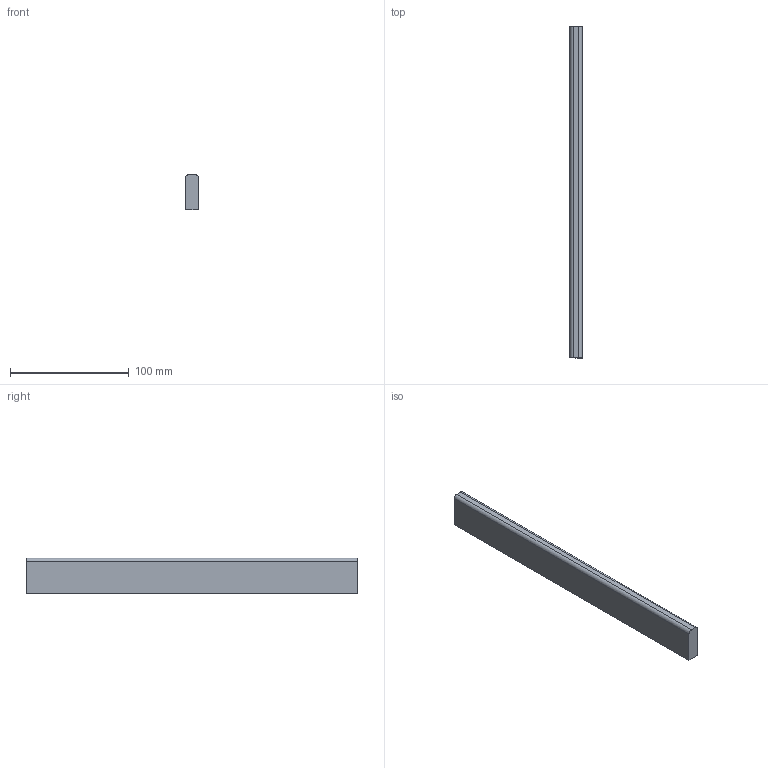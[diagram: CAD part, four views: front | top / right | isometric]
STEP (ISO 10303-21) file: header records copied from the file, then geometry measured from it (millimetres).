
FILE_DESCRIPTION (( 'STEP AP214' ), '1' );
FILE_NAME ('_Seitenreling_SP60700300_RL280.step', '2010-09-06T14:51:55', ( 'grass' ), ( '' ), 'SwSTEP 2.0', 'SolidWorks 2010', '' );
FILE_SCHEMA (( 'AUTOMOTIVE_DESIGN' ));
Length unit declared in the file: millimetre
Products named in the file (1): _Seitenreling_SP60700300_RL280
Bounding box: 10.5 x 280 x 30 mm (x, y, z)
Volume: 87118.4 mm3; surface area: 22581.2 mm2
Topology: 1 solids, 1 shells, 8 faces, 18 edges, 12 vertices
Faces by surface type: plane 6, cylinder 2
Entity records: 260 total; most frequent: DIRECTION 40, CARTESIAN_POINT 39, ORIENTED_EDGE 36, EDGE_CURVE 18, LINE 14, VECTOR 14, AXIS2_PLACEMENT_3D 13, VERTEX_POINT 12
